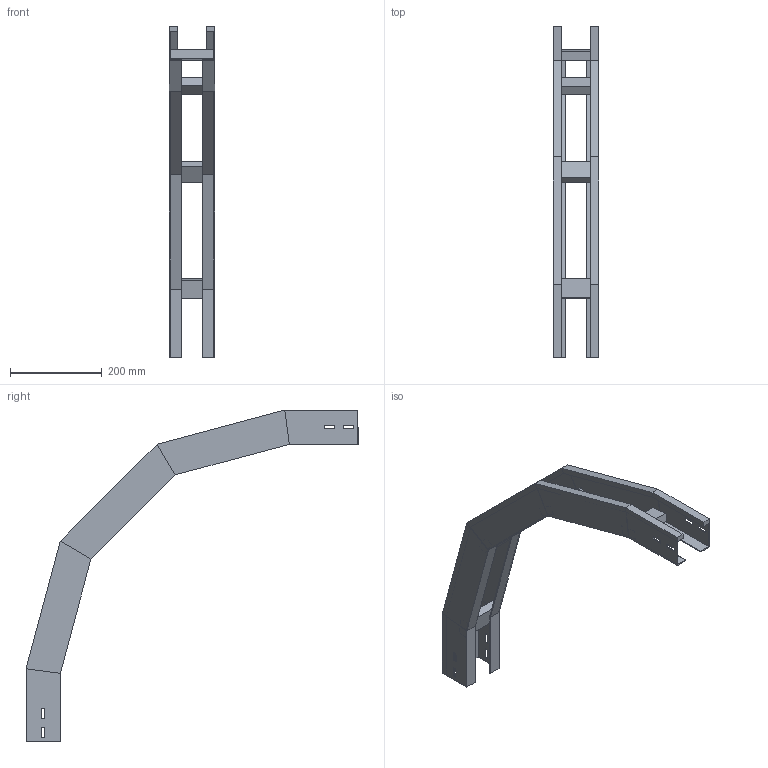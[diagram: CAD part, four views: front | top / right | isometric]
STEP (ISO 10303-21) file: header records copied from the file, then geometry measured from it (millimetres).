
FILE_DESCRIPTION (( 'STEP AP214' ), '1' );
FILE_NAME ('33B5C100.step', '2025-02-21T15:04:33', ( '' ), ( '' ), 'SwSTEP 2.0', 'SolidWorks 2023', '' );
FILE_SCHEMA (( 'AUTOMOTIVE_DESIGN' ));
Length unit declared in the file: millimetre
Products named in the file (3): TRAVERSINO_100; 33B5C100; LONGH.DISCESA_90°_H75_R500
Assembly tree (6 placements, depth 2):
  33B5C100
    LONGH.DISCESA_90°_H75_R500  x2
    TRAVERSINO_100  x4
Bounding box: 100 x 725.35 x 725.35 mm (x, y, z)
Volume: 1213437.3 mm3; surface area: 587000 mm2
Topology: 6 solids, 6 shells, 140 faces, 320 edges, 192 vertices
Faces by surface type: plane 140
Entity records: 1872 total; most frequent: CARTESIAN_POINT 309, ORIENTED_EDGE 296, DIRECTION 294, VECTOR 148, LINE 148, EDGE_CURVE 148, VERTEX_POINT 88, AXIS2_PLACEMENT_3D 73
